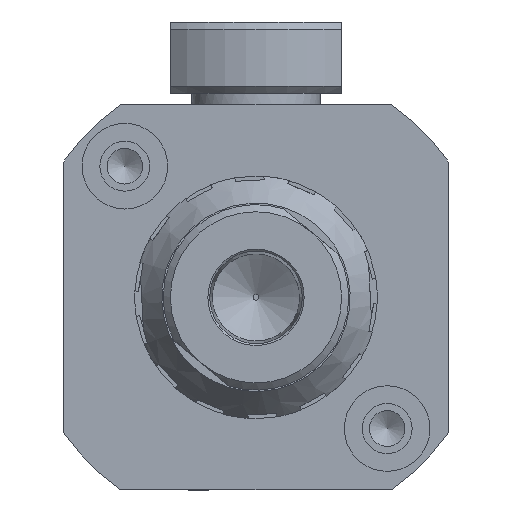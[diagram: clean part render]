
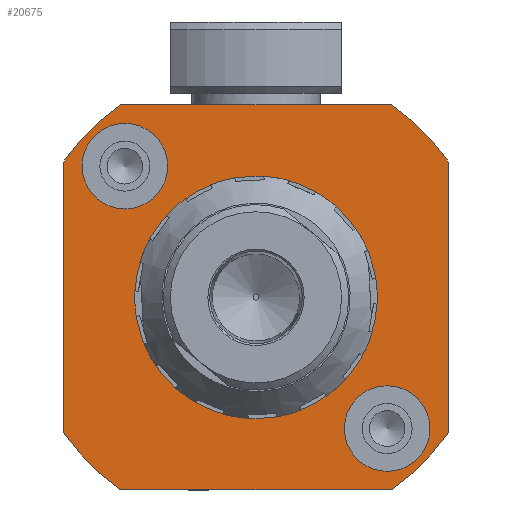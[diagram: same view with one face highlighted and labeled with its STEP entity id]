
A CAD part, front view. The second image highlights one B-rep face of the part: STEP entity #20675.
In plain terms, the highlighted planar face has unit normal (0, -1, 0).
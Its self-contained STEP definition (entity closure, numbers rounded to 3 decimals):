
#50 = FACE_OUTER_BOUND ( 'NONE', #17084, .T. ) ;
#202 = CIRCLE ( 'NONE', #11684, 3. ) ;
#452 = ORIENTED_EDGE ( 'NONE', *, *, #8875, .F. ) ;
#733 = DIRECTION ( 'NONE',  ( 0., 0., -1. ) ) ;
#753 = EDGE_CURVE ( 'NONE', #26606, #21655, #14847, .T. ) ;
#834 = DIRECTION ( 'NONE',  ( 0., -1., 0. ) ) ;
#1217 = CARTESIAN_POINT ( 'NONE',  ( 13.543, -109.649, 75.513 ) ) ;
#1942 = DIRECTION ( 'NONE',  ( -1., 0., 0. ) ) ;
#2231 = EDGE_LOOP ( 'NONE', ( #3276 ) ) ;
#2370 = AXIS2_PLACEMENT_3D ( 'NONE', #10552, #8472, #25312 ) ;
#3161 = VECTOR ( 'NONE', #9632, 1000. ) ;
#3178 = VERTEX_POINT ( 'NONE', #21377 ) ;
#3276 = ORIENTED_EDGE ( 'NONE', *, *, #24323, .F. ) ;
#3582 = CIRCLE ( 'NONE', #19038, 8.5 ) ;
#4053 = ORIENTED_EDGE ( 'NONE', *, *, #22176, .F. ) ;
#4318 = DIRECTION ( 'NONE',  ( 0., 1., 0. ) ) ;
#4579 = DIRECTION ( 'NONE',  ( 0., 0., -1. ) ) ;
#4654 = DIRECTION ( 'NONE',  ( 0., 0., 1. ) ) ;
#4720 = CARTESIAN_POINT ( 'NONE',  ( 0.043, -109.649, 98.5 ) ) ;
#4947 = DIRECTION ( 'NONE',  ( 0., 0., -1. ) ) ;
#5383 = CARTESIAN_POINT ( 'NONE',  ( 0.043, -109.649, 85. ) ) ;
#6829 = ORIENTED_EDGE ( 'NONE', *, *, #14721, .F. ) ;
#7001 = DIRECTION ( 'NONE',  ( 0., -1., 0. ) ) ;
#7034 = AXIS2_PLACEMENT_3D ( 'NONE', #24399, #24257, #4947 ) ;
#7123 = CARTESIAN_POINT ( 'NONE',  ( 9.235, -109.649, 75.808 ) ) ;
#7366 = CARTESIAN_POINT ( 'NONE',  ( 0.043, -109.649, 85. ) ) ;
#7488 = CARTESIAN_POINT ( 'NONE',  ( -9.444, -109.649, 71.5 ) ) ;
#7774 = EDGE_CURVE ( 'NONE', #19086, #23814, #25988, .T. ) ;
#8472 = DIRECTION ( 'NONE',  ( 0., 1., 0. ) ) ;
#8875 = EDGE_CURVE ( 'NONE', #26154, #19746, #12170, .T. ) ;
#9113 = CARTESIAN_POINT ( 'NONE',  ( -13.457, -109.649, 85. ) ) ;
#9345 = ORIENTED_EDGE ( 'NONE', *, *, #23536, .F. ) ;
#9632 = DIRECTION ( 'NONE',  ( 0., 0., -1. ) ) ;
#10053 = DIRECTION ( 'NONE',  ( 0., 0., 1. ) ) ;
#10120 = EDGE_CURVE ( 'NONE', #17363, #17363, #3582, .T. ) ;
#10424 = ORIENTED_EDGE ( 'NONE', *, *, #14390, .F. ) ;
#10552 = CARTESIAN_POINT ( 'NONE',  ( 0.043, -109.649, 85. ) ) ;
#11609 = DIRECTION ( 'NONE',  ( 0., -1., 0. ) ) ;
#11684 = AXIS2_PLACEMENT_3D ( 'NONE', #23889, #834, #17699 ) ;
#12023 = CIRCLE ( 'NONE', #16449, 16.5 ) ;
#12170 = LINE ( 'NONE', #21015, #23391 ) ;
#12529 = AXIS2_PLACEMENT_3D ( 'NONE', #7366, #17467, #733 ) ;
#12563 = CARTESIAN_POINT ( 'NONE',  ( 13.543, -109.649, 94.487 ) ) ;
#12805 = CARTESIAN_POINT ( 'NONE',  ( 0.043, -109.649, 93.5 ) ) ;
#12883 = DIRECTION ( 'NONE',  ( 0., 1., 0. ) ) ;
#13024 = DIRECTION ( 'NONE',  ( 1., 0., 0. ) ) ;
#13332 = VERTEX_POINT ( 'NONE', #1217 ) ;
#14390 = EDGE_CURVE ( 'NONE', #21655, #13332, #21942, .T. ) ;
#14585 = EDGE_CURVE ( 'NONE', #19746, #3178, #12023, .T. ) ;
#14700 = FACE_BOUND ( 'NONE', #18431, .T. ) ;
#14721 = EDGE_CURVE ( 'NONE', #23814, #26606, #19108, .T. ) ;
#14847 = CIRCLE ( 'NONE', #22335, 16.5 ) ;
#15317 = AXIS2_PLACEMENT_3D ( 'NONE', #7123, #7001, #4654 ) ;
#15867 = CARTESIAN_POINT ( 'NONE',  ( 13.543, -109.649, 85. ) ) ;
#16449 = AXIS2_PLACEMENT_3D ( 'NONE', #21446, #12883, #19249 ) ;
#16530 = VERTEX_POINT ( 'NONE', #26872 ) ;
#16909 = FACE_BOUND ( 'NONE', #22614, .T. ) ;
#17045 = FACE_BOUND ( 'NONE', #2231, .T. ) ;
#17084 = EDGE_LOOP ( 'NONE', ( #23718, #23651, #18952, #452, #4053, #10424, #25644, #6829 ) ) ;
#17363 = VERTEX_POINT ( 'NONE', #12805 ) ;
#17467 = DIRECTION ( 'NONE',  ( 0., 1., 0. ) ) ;
#17699 = DIRECTION ( 'NONE',  ( 0., 0., 1. ) ) ;
#17827 = LINE ( 'NONE', #9113, #24391 ) ;
#17908 = CARTESIAN_POINT ( 'NONE',  ( 9.529, -109.649, 71.5 ) ) ;
#18431 = EDGE_LOOP ( 'NONE', ( #26796 ) ) ;
#18481 = CARTESIAN_POINT ( 'NONE',  ( -13.457, -109.649, 94.487 ) ) ;
#18952 = ORIENTED_EDGE ( 'NONE', *, *, #14585, .F. ) ;
#19038 = AXIS2_PLACEMENT_3D ( 'NONE', #5383, #11609, #10053 ) ;
#19086 = VERTEX_POINT ( 'NONE', #18481 ) ;
#19108 = LINE ( 'NONE', #4720, #26119 ) ;
#19249 = DIRECTION ( 'NONE',  ( 0., 0., -1. ) ) ;
#19746 = VERTEX_POINT ( 'NONE', #7488 ) ;
#20675 = ADVANCED_FACE ( 'NONE', ( #14700, #50, #17045, #16909 ), #23111, .F. ) ;
#21015 = CARTESIAN_POINT ( 'NONE',  ( 0.043, -109.649, 71.5 ) ) ;
#21133 = CARTESIAN_POINT ( 'NONE',  ( -9.444, -109.649, 98.5 ) ) ;
#21336 = EDGE_CURVE ( 'NONE', #3178, #19086, #17827, .T. ) ;
#21377 = CARTESIAN_POINT ( 'NONE',  ( -13.457, -109.649, 75.513 ) ) ;
#21446 = CARTESIAN_POINT ( 'NONE',  ( 0.043, -109.649, 85. ) ) ;
#21562 = DIRECTION ( 'NONE',  ( 0., 0., 1. ) ) ;
#21655 = VERTEX_POINT ( 'NONE', #12563 ) ;
#21942 = LINE ( 'NONE', #15867, #3161 ) ;
#22176 = EDGE_CURVE ( 'NONE', #13332, #26154, #22662, .T. ) ;
#22335 = AXIS2_PLACEMENT_3D ( 'NONE', #23236, #4318, #4579 ) ;
#22614 = EDGE_LOOP ( 'NONE', ( #9345 ) ) ;
#22662 = CIRCLE ( 'NONE', #12529, 16.5 ) ;
#23111 = PLANE ( 'NONE',  #2370 ) ;
#23236 = CARTESIAN_POINT ( 'NONE',  ( 0.043, -109.649, 85. ) ) ;
#23391 = VECTOR ( 'NONE', #1942, 1000. ) ;
#23536 = EDGE_CURVE ( 'NONE', #16530, #16530, #202, .T. ) ;
#23651 = ORIENTED_EDGE ( 'NONE', *, *, #21336, .F. ) ;
#23718 = ORIENTED_EDGE ( 'NONE', *, *, #7774, .F. ) ;
#23814 = VERTEX_POINT ( 'NONE', #21133 ) ;
#23889 = CARTESIAN_POINT ( 'NONE',  ( -9.15, -109.649, 94.192 ) ) ;
#24257 = DIRECTION ( 'NONE',  ( 0., 1., 0. ) ) ;
#24323 = EDGE_CURVE ( 'NONE', #26747, #26747, #27212, .T. ) ;
#24391 = VECTOR ( 'NONE', #21562, 1000. ) ;
#24399 = CARTESIAN_POINT ( 'NONE',  ( 0.043, -109.649, 85. ) ) ;
#24789 = CARTESIAN_POINT ( 'NONE',  ( 9.235, -109.649, 78.808 ) ) ;
#25312 = DIRECTION ( 'NONE',  ( 0., 0., -1. ) ) ;
#25644 = ORIENTED_EDGE ( 'NONE', *, *, #753, .F. ) ;
#25988 = CIRCLE ( 'NONE', #7034, 16.5 ) ;
#26119 = VECTOR ( 'NONE', #13024, 1000. ) ;
#26154 = VERTEX_POINT ( 'NONE', #17908 ) ;
#26420 = CARTESIAN_POINT ( 'NONE',  ( 9.529, -109.649, 98.5 ) ) ;
#26606 = VERTEX_POINT ( 'NONE', #26420 ) ;
#26747 = VERTEX_POINT ( 'NONE', #24789 ) ;
#26796 = ORIENTED_EDGE ( 'NONE', *, *, #10120, .F. ) ;
#26872 = CARTESIAN_POINT ( 'NONE',  ( -9.15, -109.649, 97.192 ) ) ;
#27212 = CIRCLE ( 'NONE', #15317, 3. ) ;
